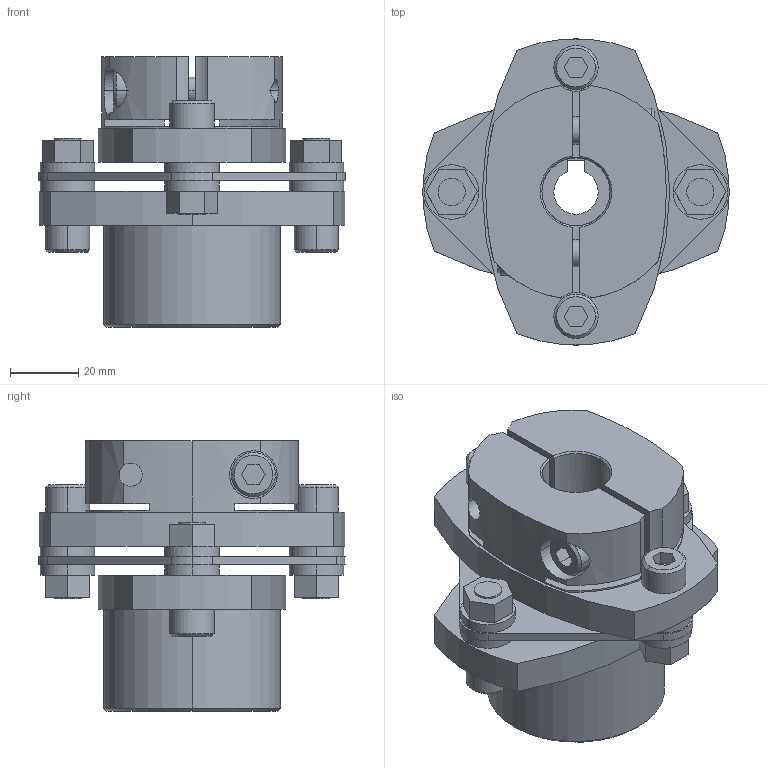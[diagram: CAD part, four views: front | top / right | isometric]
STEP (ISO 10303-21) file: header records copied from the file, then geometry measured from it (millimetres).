
FILE_DESCRIPTION((''),'2;1');
FILE_NAME('LCS-90M-16L亊20B.stp','2011-08-20T16:27:26',(''),(''),'AutoCAD STEP 2000i','AutoCAD 2000i',', , ');
FILE_SCHEMA(('CONFIG_CONTROL_DESIGN'));
Length unit declared in the file: millimetre
Products named in the file (6): LCS-90M-16L×19B; 忣兜1; LC90M-L016; LC90-B019-1; LC90-B019; LCS90-ITA
Assembly tree (5 placements, depth 2):
  LCS-90M-16L×19B
    忣兜1
    LC90M-L016
    LC90-B019-1
    LC90-B019
    LCS90-ITA
Bounding box: 90 x 89.94 x 79.5 mm (x, y, z)
Volume: 199649.3 mm3; surface area: 51135.3 mm2
Topology: 1 solids, 1 shells, 234 faces, 588 edges, 386 vertices
Faces by surface type: plane 115, cylinder 96, cone 23
Entity records: 7529 total; most frequent: CARTESIAN_POINT 1546, DIRECTION 1272, ORIENTED_EDGE 1176, EDGE_CURVE 588, AXIS2_PLACEMENT_3D 466, VERTEX_POINT 386, VECTOR 340, LINE 340
